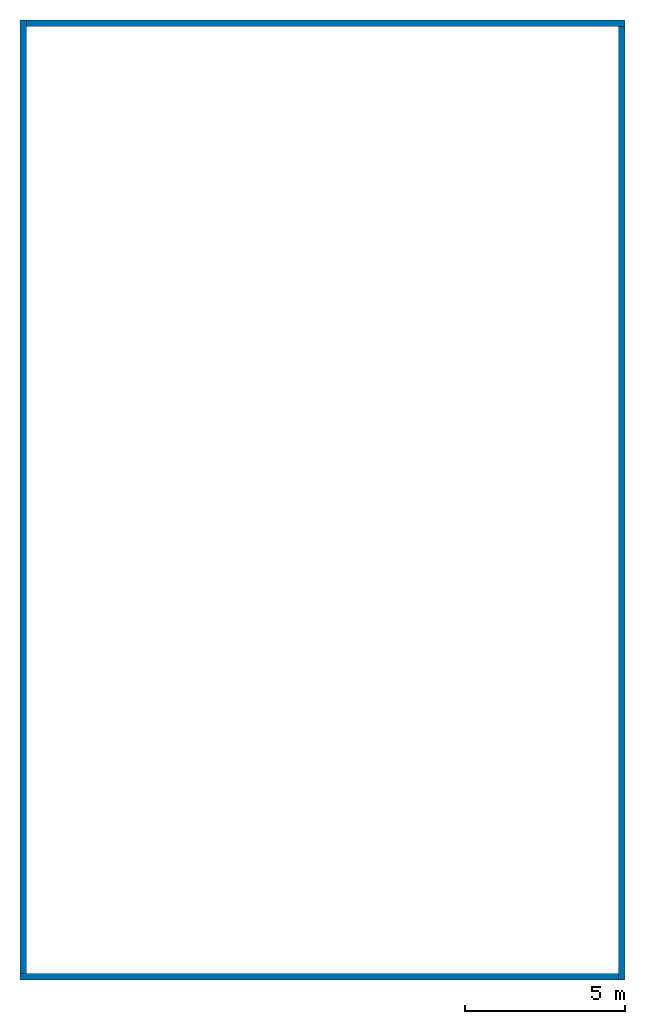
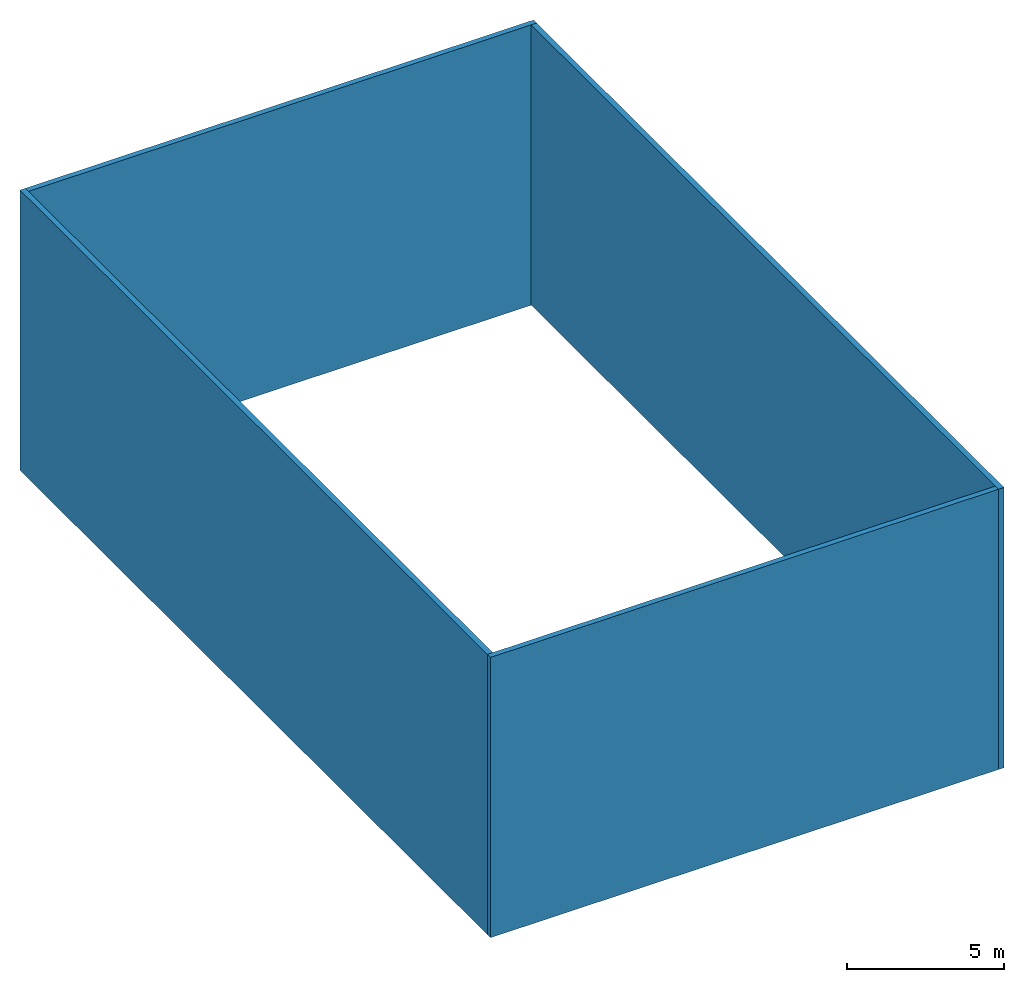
# One storey: 4 walls.
"""IFC2X3 building model written with IfcOpenShell, lengths in millimetres."""

from ifc_helpers import new_model, entity, si_unit, converted_unit, direction, frame, frame_2d, origin, place, context, subcontext, project, spatial, rectangle, extrude, material, layer, layer_set, layer_usage, type_object, element, save


model = new_model("IFC2X3")

# Units and contexts
model_context = context("Model", 3, precision=0.01, world=origin(), true_north=direction((6.123233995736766e-17, 1.0)))
body_context = subcontext(model_context, "Body", "Model", "MODEL_VIEW")
ifc_project = project(units=[si_unit("LENGTHUNIT", "METRE", prefix="MILLI"), si_unit("AREAUNIT", "SQUARE_METRE"), converted_unit("PLANEANGLEUNIT", "DEGREE", entity("IfcPlaneAngleMeasure", 0.017453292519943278), si_unit("PLANEANGLEUNIT", "RADIAN"), dimensions=[0, 0, 0, 0, 0, 0, 0])], contexts=[model_context])

# Site, building, storey
site_placement = place(None, origin())
site = spatial("IfcSite", under=ifc_project, at=site_placement, Name="Default", CompositionType="ELEMENT")
building_placement = place(site_placement, origin())
building = spatial("IfcBuilding", under=site, at=building_placement, CompositionType="ELEMENT")
storey_placement = place(building_placement, frame((0.0, 0.0, 23090.0)))
storey = spatial("IfcBuildingStorey", under=building, at=storey_placement, Name="Dak zaal", CompositionType="ELEMENT", Elevation=23090.0)

# Walls
ifc_material = material(Name="NL_20_wand")
ifc_layer = layer(ifc_material, 200.0)
ifc_layer_set = layer_set([ifc_layer], Name="Basic Wall:AL_20_basis_200")
ifc_layer_usage_1 = layer_usage(ifc_layer_set, "AXIS2", "NEGATIVE", 100.0)
wall_type = type_object("IfcWallType", Name="Basic Wall:AL_20_basis_200", PredefinedType="STANDARD", material=ifc_layer_set)
wall_1_placement = place(storey_placement, frame((6386.744931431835, 9631.167906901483, 0.0)))
element("IfcWallStandardCase", 1, at=wall_1_placement, inside=storey, type_object=wall_type, material=ifc_layer_usage_1, Name="Basic Wall:AL_20_basis_200", ObjectType="Basic Wall:AL_20_basis_200", context=body_context, shape_type="SweptSolid", body=[
    extrude(rectangle(XDim=18704.99999999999, YDim=200.0, at=frame_2d((9352.499999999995, 0.0), x_axis=(-1.0, 0.0))), origin(), (0.0, 0.0, 1.0), 10909.999999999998),
])
ifc_layer_usage_2 = layer_usage(ifc_layer_set, "AXIS2", "NEGATIVE", 100.0)
wall_2_placement = place(storey_placement, frame((6486.744931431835, 39531.167906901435, 0.0), z_axis=(0.0, 0.0, 1.0), x_axis=(0.0, -1.0, 0.0)))
element("IfcWallStandardCase", 2, at=wall_2_placement, inside=storey, type_object=wall_type, material=ifc_layer_usage_2, Name="Basic Wall:AL_20_basis_200", ObjectType="Basic Wall:AL_20_basis_200", context=body_context, shape_type="SweptSolid", body=[
    extrude(rectangle(XDim=29799.99999999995, YDim=200.0, at=frame_2d((14899.999999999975, 0.0), x_axis=(-1.0, 0.0))), origin(), (0.0, 0.0, 1.0), 10909.999999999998),
])
ifc_layer_usage_3 = layer_usage(ifc_layer_set, "AXIS2", "NEGATIVE", 100.0)
wall_3_placement = place(storey_placement, frame((25291.744931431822, 39431.16790690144, 0.0), z_axis=(0.0, 0.0, 1.0), x_axis=(-1.0, 0.0, 0.0)))
element("IfcWallStandardCase", 3, at=wall_3_placement, inside=storey, type_object=wall_type, material=ifc_layer_usage_3, Name="Basic Wall:AL_20_basis_200", ObjectType="Basic Wall:AL_20_basis_200", context=body_context, shape_type="SweptSolid", body=[
    extrude(rectangle(XDim=18704.99999999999, YDim=200.0000000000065, at=frame_2d((9352.499999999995, 6.536993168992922e-13), x_axis=(-1.0, 0.0))), origin(), (0.0, 0.0, 1.0), 10909.999999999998),
])
ifc_layer_usage_4 = layer_usage(ifc_layer_set, "AXIS2", "NEGATIVE", 100.0)
wall_4_placement = place(storey_placement, frame((25191.744931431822, 9531.167906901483, 0.0), z_axis=(0.0, 0.0, 1.0), x_axis=(0.0, 1.0, 0.0)))
element("IfcWallStandardCase", 4, at=wall_4_placement, inside=storey, type_object=wall_type, material=ifc_layer_usage_4, Name="Basic Wall:AL_20_basis_200", ObjectType="Basic Wall:AL_20_basis_200", context=body_context, shape_type="SweptSolid", body=[
    extrude(rectangle(XDim=29799.99999999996, YDim=199.99999999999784, at=frame_2d((14899.99999999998, 0.0), x_axis=(-1.0, 0.0))), origin(), (0.0, 0.0, 1.0), 10909.999999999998),
])

save(model, "model.ifc")
